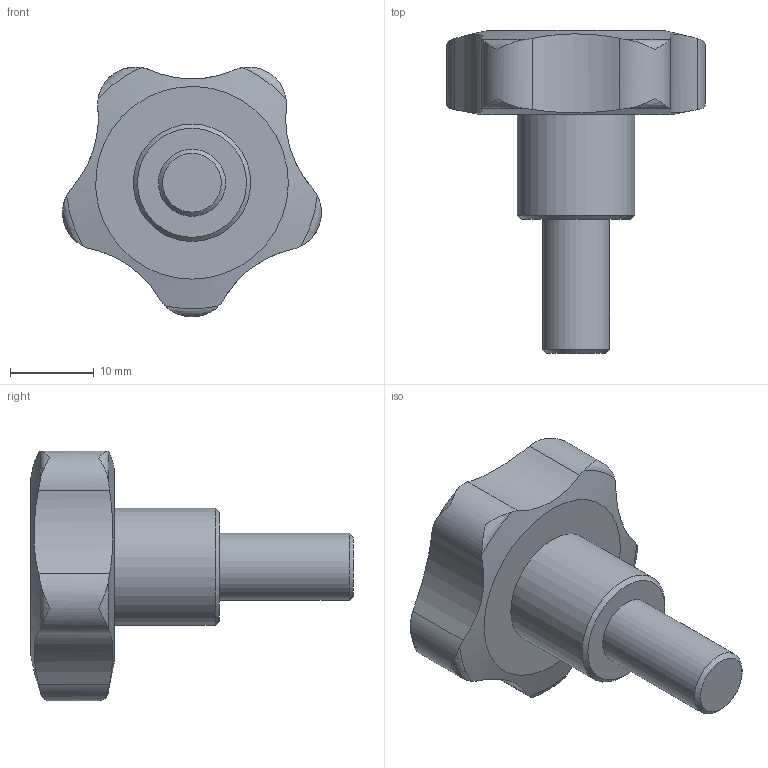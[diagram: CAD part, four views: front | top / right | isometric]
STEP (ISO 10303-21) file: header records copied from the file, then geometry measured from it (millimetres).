
FILE_DESCRIPTION( ( 'STEP AP203' ), '1' );
FILE_NAME( 'C:/Temp/Ganter_Step_05_03_2020/data/2_2/gn_5337_4/gn_5337_4_s/Star knob GN 5337.4-32-M8-16.stp', '2020-03-05T12:09:43', ( 'License CC BY-ND 4.0' ), ( 'CADENAS' ), ' ', 'PARTsolutions', ' ' );
FILE_SCHEMA( ( 'CONFIG_CONTROL_DESIGN' ) );
Length unit declared in the file: millimetre
Products named in the file (1): _Star knob GN 5337.4-32-M8-16
Bounding box: 30.87 x 38.5 x 29.8 mm (x, y, z)
Volume: 8618.9 mm3; surface area: 3038 mm2
Topology: 1 solids, 2 shells, 34 faces, 90 edges, 61 vertices
Faces by surface type: cylinder 14, torus 10, plane 5, cone 3, bspline 1, sphere 1
Full cylindrical faces by diameter (mm): 7 x1, 7.2 x1, 8 x1, 14 x1
Entity records: 1439 total; most frequent: CARTESIAN_POINT 674, ORIENTED_EDGE 154, DIRECTION 122, EDGE_CURVE 77, VERTEX_POINT 58, AXIS2_PLACEMENT_3D 56, EDGE_LOOP 46, B_SPLINE_CURVE_WITH_KNOTS 45
